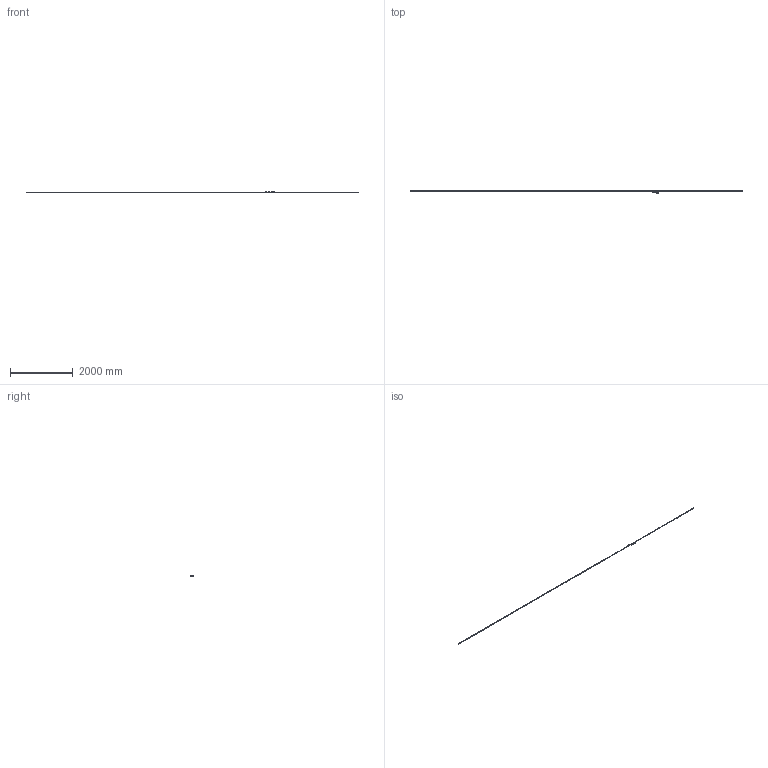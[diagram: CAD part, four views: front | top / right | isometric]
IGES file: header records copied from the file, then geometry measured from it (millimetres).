
Start section: Elysium IGES Interface
Global section: file name: 91H\\Utsu119s\kiyo_cad\data\3D\ABS ST1300\HP掲載用_201803\ST1300-Dタイプ\PKG\ST1300-10400D.igs; native system: Creo Elements/Direct Modeling 18.1B  29-Sep-2012; preprocessor: Creo Element/Direct IGES_3D V2.2; author: Unknown; organization: Unknown; date: 20180301.163734; units: millimetre
Bounding box: 10573 x 88.3 x 30.1 mm (x, y, z)
Volume: 912831.2 mm3; surface area: 568424.8 mm2
Topology: 3 solids, 10 shells, 6499 faces, 17402 edges, 11202 vertices
Faces by surface type: bspline 6499
